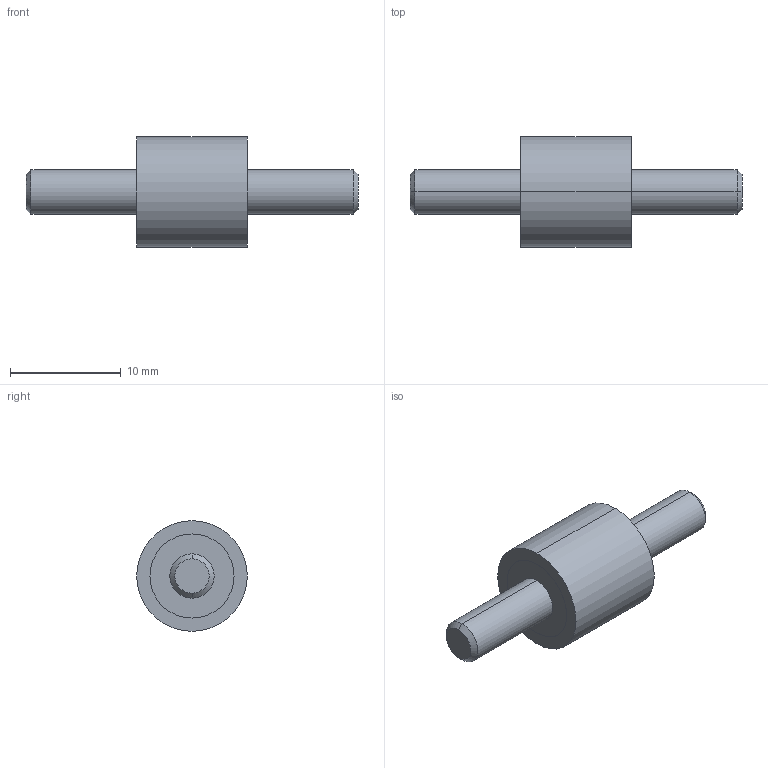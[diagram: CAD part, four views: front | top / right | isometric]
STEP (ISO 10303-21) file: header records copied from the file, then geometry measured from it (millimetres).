
FILE_DESCRIPTION (( 'STEP AP214' ), '1' );
FILE_NAME ('351-10-10-M4-SS-40.step', '2025-07-23T10:00:22', ( '' ), ( '' ), 'SwSTEP 2.0', 'SolidWorks 2022', '' );
FILE_SCHEMA (( 'AUTOMOTIVE_DESIGN' ));
Length unit declared in the file: millimetre
Products named in the file (1): 351-10-10-M4-SS-40
Bounding box: 30 x 10 x 10 mm (x, y, z)
Volume: 1033.7 mm3; surface area: 716.1 mm2
Topology: 1 solids, 1 shells, 20 faces, 38 edges, 24 vertices
Faces by surface type: cylinder 10, plane 6, cone 4
Entity records: 636 total; most frequent: DIRECTION 104, CARTESIAN_POINT 83, ORIENTED_EDGE 76, AXIS2_PLACEMENT_3D 45, EDGE_CURVE 38, EDGE_LOOP 24, VERTEX_POINT 24, CIRCLE 24
